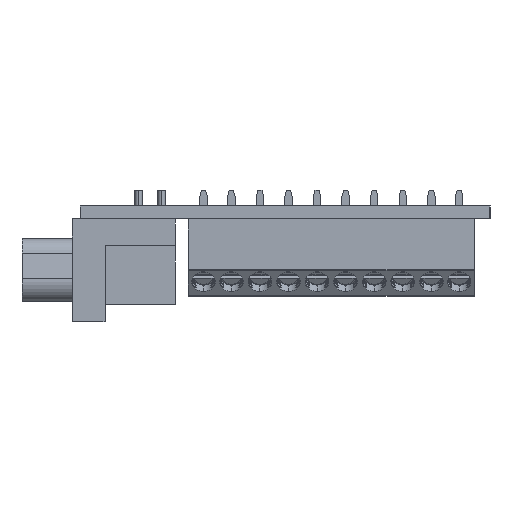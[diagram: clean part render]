
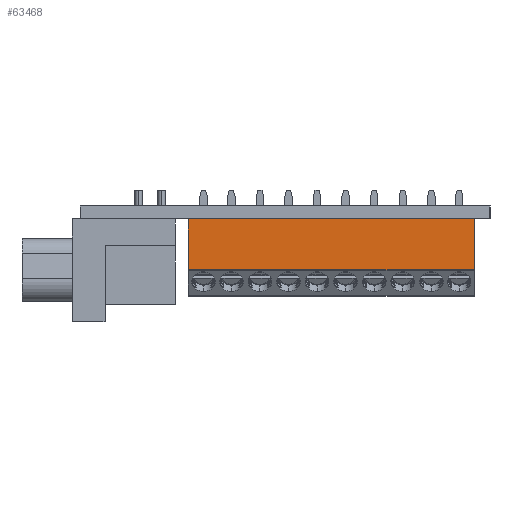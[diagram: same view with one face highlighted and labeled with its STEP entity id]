
A CAD part, left-side view. The second image highlights one B-rep face of the part: STEP entity #63468.
In plain terms, the highlighted planar face has unit normal (-1, 0, 0).
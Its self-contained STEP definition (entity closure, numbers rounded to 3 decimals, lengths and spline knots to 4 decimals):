
#77=DIRECTION('',(0.,-1.,0.));
#78=VECTOR('',#77,1.378);
#79=CARTESIAN_POINT('',(-1.1137,0.4665,0.));
#80=LINE('',#79,#78);
#7867=DIRECTION('',(0.,0.,1.));
#7868=VECTOR('',#7867,0.2445);
#7869=CARTESIAN_POINT('',(-1.1137,-0.9115,
-0.2445));
#7870=LINE('',#7869,#7868);
#7871=DIRECTION('',(0.,0.,-1.));
#7872=VECTOR('',#7871,0.2445);
#7873=CARTESIAN_POINT('',(-1.1137,0.4665,0.));
#7874=LINE('',#7873,#7872);
#7879=DIRECTION('',(0.,-1.,0.));
#7880=VECTOR('',#7879,1.378);
#7881=CARTESIAN_POINT('',(-1.1137,0.4665,-0.2445));
#7882=LINE('',#7881,#7880);
#43890=CARTESIAN_POINT('',(-1.1137,-0.9115,
-0.2445));
#43892=VERTEX_POINT('',#43890);
#45125=CARTESIAN_POINT('',(-1.1137,0.4665,-0.2445));
#45126=VERTEX_POINT('',#45125);
#45749=CARTESIAN_POINT('',(-1.1137,-0.9115,0.));
#45751=VERTEX_POINT('',#45749);
#45753=CARTESIAN_POINT('',(-1.1137,0.4665,0.));
#45755=VERTEX_POINT('',#45753);
#63456=CARTESIAN_POINT('',(-1.1137,-0.2225,
-0.1222));
#63457=DIRECTION('',(1.,0.,0.));
#63458=DIRECTION('',(0.,0.,1.));
#63459=AXIS2_PLACEMENT_3D('',#63456,#63457,#63458);
#63460=PLANE('',#63459);
#63461=ORIENTED_EDGE('',*,*,#51582,.T.);
#63462=ORIENTED_EDGE('',*,*,#63399,.F.);
#63464=ORIENTED_EDGE('',*,*,#63463,.F.);
#63465=ORIENTED_EDGE('',*,*,#63423,.F.);
#63466=EDGE_LOOP('',(#63461,#63462,#63464,#63465));
#63467=FACE_OUTER_BOUND('',#63466,.F.);
#63468=ADVANCED_FACE('',(#63467),#63460,.F.);
#51582=EDGE_CURVE('',#45755,#45751,#80,.T.);
#63399=EDGE_CURVE('',#43892,#45751,#7870,.T.);
#63423=EDGE_CURVE('',#45755,#45126,#7874,.T.);
#63463=EDGE_CURVE('',#45126,#43892,#7882,.T.);
